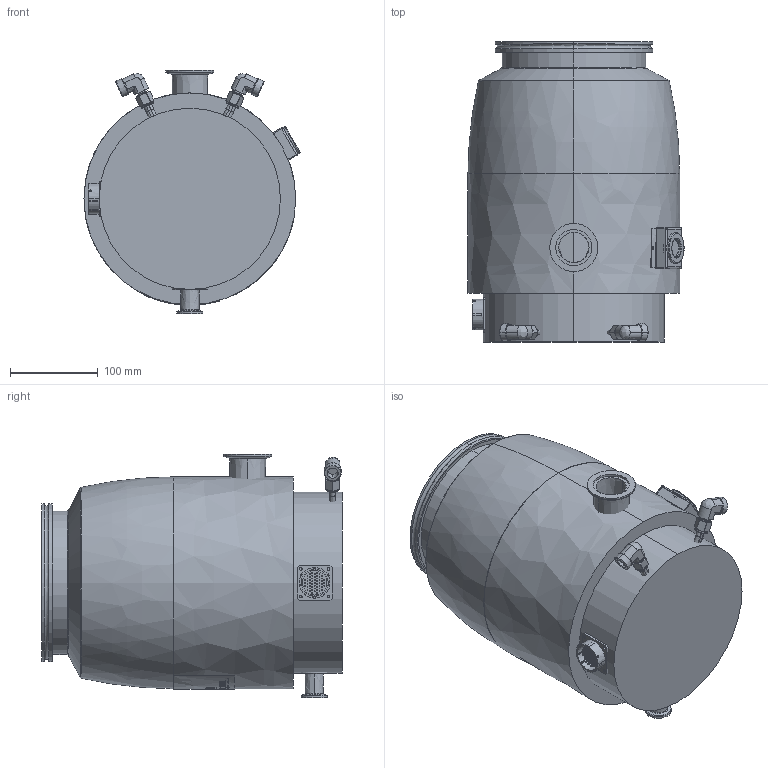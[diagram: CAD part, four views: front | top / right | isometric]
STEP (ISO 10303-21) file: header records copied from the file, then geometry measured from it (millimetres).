
FILE_DESCRIPTION((''),'2;1');
FILE_NAME('ENV-1300M-M2412100','2006-03-02T',('NVARENNES'),(''),'PRO/ENGINEER BY PARAMETRIC TECHNOLOGY CORPORATION, 2005070','PRO/ENGINEER BY PARAMETRIC TECHNOLOGY CORPORATION, 2005070','');
FILE_SCHEMA(('CONFIG_CONTROL_DESIGN'));
Products named in the file (1): ENV-1300M-M2412100
Bounding box: 246.93 x 342.85 x 278.5 mm (x, y, z)
Volume: 13692165.2 mm3; surface area: 432429.5 mm2
Topology: 1 solids, 14 shells, 1523 faces, 3799 edges, 2249 vertices
Faces by surface type: bspline 1523
Entity records: 77490 total; most frequent: CARTESIAN_POINT 46680, ORIENTED_EDGE 7154, DIRECTION 4671, EDGE_CURVE 3577, VERTEX_POINT 2249, EDGE_LOOP 1730, AXIS2_PLACEMENT_3D 1639, CIRCLE 1638
